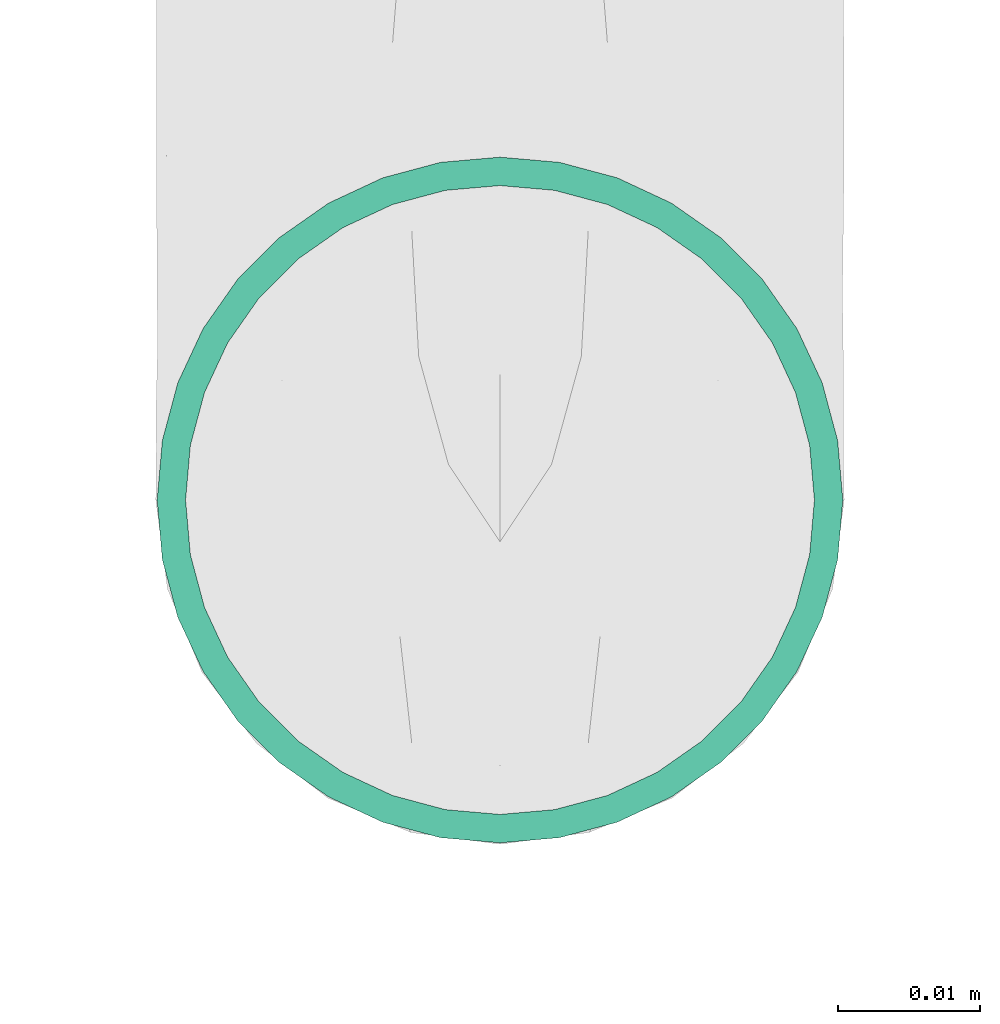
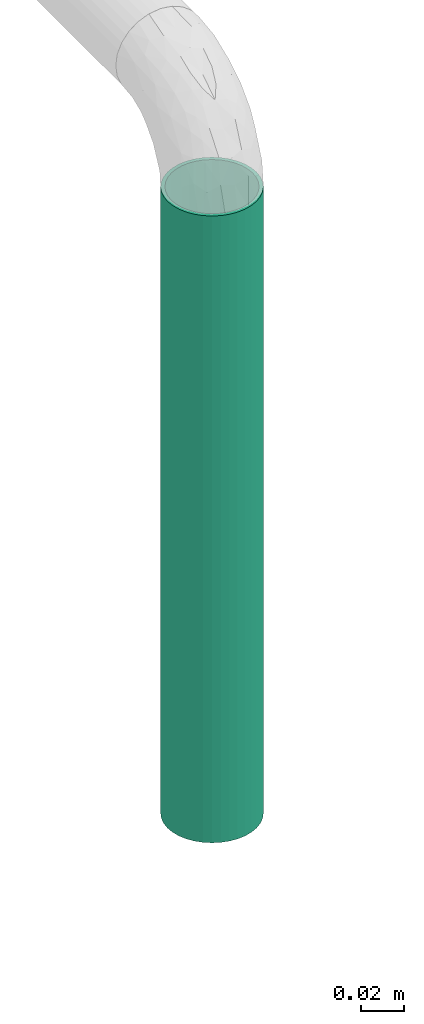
# One storey, part 29 of 32: 1 flow segment.
"""IFC2X3 building model written with IfcOpenShell, lengths in millimetres."""

from ifc_helpers import new_model, entity, si_unit, converted_unit, derived_unit, direction, frame, place, context, subcontext, project, spatial, faceted_brep, type_object, element, save


model = new_model("IFC2X3")

# Units and contexts
model_context = context("Model", 3, precision=0.01, world=frame((0.0, 4.29681676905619e-09, 0.0)), true_north=direction((4.01073788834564e-13, 1.0)))
plan_context = context("Plan", 3, precision=0.01, world=frame((0.0, 4.29681676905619e-09, 0.0)), true_north=direction((4.01073788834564e-13, 1.0)))
body_context = subcontext(model_context, "Body", "Model", "MODEL_VIEW")
ifc_project = project(units=[converted_unit("PLANEANGLEUNIT", "DEGREE", entity("IfcPositiveLengthMeasure", 0.0174532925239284), si_unit("PLANEANGLEUNIT", "RADIAN"), dimensions=[0, 0, 0, 0, 0, 0, 0]), si_unit("AREAUNIT", "SQUARE_METRE"), si_unit("LENGTHUNIT", "METRE", prefix="MILLI"), si_unit("MASSUNIT", "GRAM", prefix="KILO"), si_unit("POWERUNIT", "WATT"), si_unit("PRESSUREUNIT", "PASCAL", prefix="KILO"), si_unit("FORCEUNIT", "NEWTON", prefix="KILO"), si_unit("ELECTRICVOLTAGEUNIT", "VOLT"), si_unit("ELECTRICCURRENTUNIT", "AMPERE"), si_unit("THERMODYNAMICTEMPERATUREUNIT", "DEGREE_CELSIUS"), si_unit("TIMEUNIT", "SECOND"), si_unit("VOLUMEUNIT", "CUBIC_METRE"), derived_unit("LINEARVELOCITYUNIT", [(si_unit("LENGTHUNIT", "METRE"), 1), (si_unit("TIMEUNIT", "SECOND"), -1)]), derived_unit("VOLUMETRICFLOWRATEUNIT", [(si_unit("VOLUMEUNIT", "CUBIC_METRE"), 1), (si_unit("TIMEUNIT", "SECOND"), -1)]), derived_unit("THERMALTRANSMITTANCEUNIT", [(si_unit("POWERUNIT", "WATT"), 1), (si_unit("THERMODYNAMICTEMPERATUREUNIT", "KELVIN"), -1), (si_unit("AREAUNIT", "SQUARE_METRE"), -1)]), derived_unit("SOUNDPRESSUREUNIT", [(si_unit("PRESSUREUNIT", "PASCAL"), 1)])], contexts=[model_context, plan_context])

# Site, building, storey
site_placement = place(None, frame((0.0, -4.29681676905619e-09, 0.0), z_axis=(0.0, 0.0, 1.0), x_axis=(1.0, 0.0, 0.0)))
site = spatial("IfcSite", under=ifc_project, at=site_placement, CompositionType="ELEMENT")
building_placement = place(site_placement, frame((0.0, 4.29681676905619e-09, 0.0), z_axis=(0.0, 0.0, 1.0), x_axis=(1.0, 0.0, 0.0)))
building = spatial("IfcBuilding", under=site, at=building_placement, Name="mc-building", CompositionType="ELEMENT")
storey_placement = place(building_placement, frame((0.0, 0.0, 205200.0), z_axis=(0.0, 0.0, 1.0), x_axis=(1.0, 0.0, 0.0)))
storey = spatial("IfcBuildingStorey", under=building, at=storey_placement, Name="Nivå D + 1,2 m", CompositionType="ELEMENT", Elevation=205200.0)

# Flow segment
pipe_segment_type = type_object("IfcPipeSegmentType", Name="Stålrør normaltykke", PredefinedType="RIGIDSEGMENT")
flow_segment_placement = place(storey_placement, frame((331536.30913, 462693.6706, 2615.83145999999), z_axis=(0.0, -1.0, 0.0), x_axis=(0.0, 0.0, 1.0)))
element("IfcFlowSegment", 1, at=flow_segment_placement, inside=storey, type_object=pipe_segment_type, Name="Stålrør normaltykke", context=body_context, shape_type="Brep", body=[
    faceted_brep([(1384.16854000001, 21.7642513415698, -3.83762472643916), (1384.16854000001, 22.1, 0.0), (1743.2, 22.1, 0.0), (1743.2, 21.7642513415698, -3.83762472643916), (1384.16854000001, 20.7672069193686, -7.5586451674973), (1743.2, 20.7672069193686, -7.5586451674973), (1384.16854000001, 19.1391614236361, -11.05), (1743.2, 19.1391614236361, -11.05), (1384.16854000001, 16.9295821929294, -14.2056061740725), (1743.2, 16.9295821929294, -14.2056061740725), (1384.16854000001, 14.2056061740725, -16.9295821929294), (1743.2, 14.2056061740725, -16.9295821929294), (1384.16854000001, 11.05, -19.1391614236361), (1743.2, 11.05, -19.1391614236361), (1384.16854000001, 7.55864516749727, -20.7672069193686), (1743.2, 7.55864516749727, -20.7672069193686), (1384.16854000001, 3.83762472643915, -21.7642513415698), (1743.2, 3.83762472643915, -21.7642513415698), (1384.16854000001, -4.05970413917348e-15, -22.1), (1743.2, -4.05970413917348e-15, -22.1), (1384.16854000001, -3.83762472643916, -21.7642513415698), (1743.2, -3.83762472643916, -21.7642513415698), (1384.16854000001, -7.55864516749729, -20.7672069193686), (1743.2, -7.55864516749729, -20.7672069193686), (1384.16854000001, -11.05, -19.1391614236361), (1743.2, -11.05, -19.1391614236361), (1384.16854000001, -14.2056061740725, -16.9295821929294), (1743.2, -14.2056061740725, -16.9295821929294), (1384.16854000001, -16.9295821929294, -14.2056061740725), (1743.2, -16.9295821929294, -14.2056061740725), (1384.16854000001, -19.1391614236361, -11.05), (1743.2, -19.1391614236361, -11.05), (1384.16854000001, -20.7672069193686, -7.55864516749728), (1743.2, -20.7672069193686, -7.55864516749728), (1384.16854000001, -21.7642513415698, -3.83762472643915), (1743.2, -21.7642513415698, -3.83762472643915), (1384.16854000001, -22.1, 2.70646942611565e-15), (1743.2, -22.1, 2.70646942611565e-15), (1384.16854000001, -21.7642513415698, 3.83762472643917), (1743.2, -21.7642513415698, 3.83762472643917), (1384.16854000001, -20.7672069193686, 7.55864516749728), (1743.2, -20.7672069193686, 7.55864516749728), (1384.16854000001, -19.1391614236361, 11.05), (1743.2, -19.1391614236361, 11.05), (1384.16854000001, -16.9295821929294, 14.2056061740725), (1743.2, -16.9295821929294, 14.2056061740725), (1384.16854000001, -14.2056061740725, 16.9295821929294), (1743.2, -14.2056061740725, 16.9295821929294), (1384.16854000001, -11.05, 19.1391614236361), (1743.2, -11.05, 19.1391614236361), (1384.16854000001, -7.55864516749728, 20.7672069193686), (1743.2, -7.55864516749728, 20.7672069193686), (1384.16854000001, -3.83762472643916, 21.7642513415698), (1743.2, -3.83762472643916, 21.7642513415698), (1384.16854000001, 1.35323471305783e-15, 22.1), (1743.2, 1.35323471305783e-15, 22.1), (1384.16854000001, 3.83762472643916, 21.7642513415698), (1743.2, 3.83762472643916, 21.7642513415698), (1384.16854000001, 7.55864516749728, 20.7672069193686), (1743.2, 7.55864516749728, 20.7672069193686), (1384.16854000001, 11.05, 19.1391614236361), (1743.2, 11.05, 19.1391614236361), (1384.16854000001, 14.2056061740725, 16.9295821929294), (1743.2, 14.2056061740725, 16.9295821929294), (1384.16854000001, 16.9295821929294, 14.2056061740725), (1743.2, 16.9295821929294, 14.2056061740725), (1384.16854000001, 19.1391614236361, 11.05), (1743.2, 19.1391614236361, 11.05), (1384.16854000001, 20.7672069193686, 7.55864516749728), (1743.2, 20.7672069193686, 7.55864516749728), (1384.16854000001, 21.7642513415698, 3.83762472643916), (1743.2, 21.7642513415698, 3.83762472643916), (1384.16854000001, 24.1, 0.0), (1384.16854000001, 23.7338668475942, -4.18492108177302), (1743.2, 23.7338668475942, -4.18492108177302), (1743.2, 24.1, 0.0), (1384.16854000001, 23.7338668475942, 4.18492108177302), (1743.2, 23.7338668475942, 4.18492108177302), (1384.16854000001, 22.6465921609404, 8.24268545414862), (1743.2, 22.6465921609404, 8.24268545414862), (1384.16854000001, 20.871212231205, 12.05), (1743.2, 20.871212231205, 12.05), (1384.16854000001, 18.4616710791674, 15.4911813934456), (1743.2, 18.4616710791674, 15.4911813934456), (1384.16854000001, 15.4911813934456, 18.4616710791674), (1743.2, 15.4911813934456, 18.4616710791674), (1384.16854000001, 12.05, 20.871212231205), (1743.2, 12.05, 20.871212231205), (1384.16854000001, 8.24268545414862, 22.6465921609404), (1743.2, 8.24268545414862, 22.6465921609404), (1384.16854000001, 4.18492108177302, 23.7338668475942), (1743.2, 4.18492108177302, 23.7338668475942), (1384.16854000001, 1.47569939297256e-15, 24.1), (1743.2, 1.47569939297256e-15, 24.1), (1384.16854000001, -4.18492108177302, 23.7338668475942), (1743.2, -4.18492108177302, 23.7338668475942), (1384.16854000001, -8.24268545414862, 22.6465921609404), (1743.2, -8.24268545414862, 22.6465921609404), (1384.16854000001, -12.05, 20.871212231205), (1743.2, -12.05, 20.871212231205), (1384.16854000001, -15.4911813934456, 18.4616710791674), (1743.2, -15.4911813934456, 18.4616710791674), (1384.16854000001, -18.4616710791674, 15.4911813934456), (1743.2, -18.4616710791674, 15.4911813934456), (1384.16854000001, -20.871212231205, 12.05), (1743.2, -20.871212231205, 12.05), (1384.16854000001, -22.6465921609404, 8.24268545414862), (1743.2, -22.6465921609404, 8.24268545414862), (1384.16854000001, -23.7338668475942, 4.18492108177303), (1743.2, -23.7338668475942, 4.18492108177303), (1384.16854000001, -24.1, 2.95139878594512e-15), (1743.2, -24.1, 2.95139878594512e-15), (1384.16854000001, -23.7338668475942, -4.18492108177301), (1743.2, -23.7338668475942, -4.18492108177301), (1384.16854000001, -22.6465921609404, -8.24268545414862), (1743.2, -22.6465921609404, -8.24268545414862), (1384.16854000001, -20.871212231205, -12.05), (1743.2, -20.871212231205, -12.05), (1384.16854000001, -18.4616710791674, -15.4911813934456), (1743.2, -18.4616710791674, -15.4911813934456), (1384.16854000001, -15.4911813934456, -18.4616710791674), (1743.2, -15.4911813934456, -18.4616710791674), (1384.16854000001, -12.05, -20.871212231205), (1743.2, -12.05, -20.871212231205), (1384.16854000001, -8.24268545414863, -22.6465921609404), (1743.2, -8.24268545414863, -22.6465921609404), (1384.16854000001, -4.18492108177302, -23.7338668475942), (1743.2, -4.18492108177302, -23.7338668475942), (1384.16854000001, -4.42709817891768e-15, -24.1), (1743.2, -4.42709817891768e-15, -24.1), (1384.16854000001, 4.18492108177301, -23.7338668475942), (1743.2, 4.18492108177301, -23.7338668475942), (1384.16854000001, 8.2426854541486, -22.6465921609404), (1743.2, 8.2426854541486, -22.6465921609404), (1384.16854000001, 12.05, -20.871212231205), (1743.2, 12.05, -20.871212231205), (1384.16854000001, 15.4911813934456, -18.4616710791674), (1743.2, 15.4911813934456, -18.4616710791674), (1384.16854000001, 18.4616710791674, -15.4911813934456), (1743.2, 18.4616710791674, -15.4911813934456), (1384.16854000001, 20.871212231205, -12.05), (1743.2, 20.871212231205, -12.05), (1384.16854000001, 22.6465921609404, -8.24268545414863), (1743.2, 22.6465921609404, -8.24268545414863)], [[[0, 1, 2, 3]], [[4, 0, 3, 5]], [[6, 4, 5, 7]], [[8, 6, 7, 9]], [[10, 8, 9, 11]], [[12, 10, 11, 13]], [[14, 12, 13, 15]], [[16, 14, 15, 17]], [[18, 16, 17, 19]], [[20, 18, 19, 21]], [[22, 20, 21, 23]], [[24, 22, 23, 25]], [[26, 24, 25, 27]], [[28, 26, 27, 29]], [[30, 28, 29, 31]], [[32, 30, 31, 33]], [[34, 32, 33, 35]], [[36, 34, 35, 37]], [[38, 36, 37, 39]], [[40, 38, 39, 41]], [[42, 40, 41, 43]], [[44, 42, 43, 45]], [[46, 44, 45, 47]], [[48, 46, 47, 49]], [[50, 48, 49, 51]], [[52, 50, 51, 53]], [[54, 52, 53, 55]], [[56, 54, 55, 57]], [[58, 56, 57, 59]], [[60, 58, 59, 61]], [[62, 60, 61, 63]], [[64, 62, 63, 65]], [[66, 64, 65, 67]], [[68, 66, 67, 69]], [[70, 68, 69, 71]], [[1, 70, 71, 2]], [[72, 73, 74, 75]], [[76, 72, 75, 77]], [[78, 76, 77, 79]], [[80, 78, 79, 81]], [[82, 80, 81, 83]], [[84, 82, 83, 85]], [[86, 84, 85, 87]], [[88, 86, 87, 89]], [[90, 88, 89, 91]], [[92, 90, 91, 93]], [[94, 92, 93, 95]], [[96, 94, 95, 97]], [[98, 96, 97, 99]], [[100, 98, 99, 101]], [[102, 100, 101, 103]], [[104, 102, 103, 105]], [[106, 104, 105, 107]], [[108, 106, 107, 109]], [[110, 108, 109, 111]], [[112, 110, 111, 113]], [[114, 112, 113, 115]], [[116, 114, 115, 117]], [[118, 116, 117, 119]], [[120, 118, 119, 121]], [[122, 120, 121, 123]], [[124, 122, 123, 125]], [[126, 124, 125, 127]], [[128, 126, 127, 129]], [[130, 128, 129, 131]], [[132, 130, 131, 133]], [[134, 132, 133, 135]], [[136, 134, 135, 137]], [[138, 136, 137, 139]], [[140, 138, 139, 141]], [[142, 140, 141, 143]], [[73, 142, 143, 74]], [[75, 74, 143, 141, 139, 137, 135, 133, 131, 129, 127, 125, 123, 121, 119, 117, 115, 113, 111, 109, 107, 105, 103, 101, 99, 97, 95, 93, 91, 89, 87, 85, 83, 81, 79, 77], [2, 71, 69, 67, 65, 63, 61, 59, 57, 55, 53, 51, 49, 47, 45, 43, 41, 39, 37, 35, 33, 31, 29, 27, 25, 23, 21, 19, 17, 15, 13, 11, 9, 7, 5, 3]], [[76, 78, 80, 82, 84, 86, 88, 90, 92, 94, 96, 98, 100, 102, 104, 106, 108, 110, 112, 114, 116, 118, 120, 122, 124, 126, 128, 130, 132, 134, 136, 138, 140, 142, 73, 72], [4, 6, 8, 10, 12, 14, 16, 18, 20, 22, 24, 26, 28, 30, 32, 34, 36, 38, 40, 42, 44, 46, 48, 50, 52, 54, 56, 58, 60, 62, 64, 66, 68, 70, 1, 0]]], orient=[[False], [False], [False], [False], [False], [False], [False], [False], [False], [False], [False], [False], [False], [False], [False], [False], [False], [False], [False], [False], [False], [False], [False], [False], [False], [False], [False], [False], [False], [False], [False], [False], [False], [False], [False], [False], [False], [False], [False], [False], [False], [False], [False], [False], [False], [False], [False], [False], [False], [False], [False], [False], [False], [False], [False], [False], [False], [False], [False], [False], [False], [False], [False], [False], [False], [False], [False], [False], [False], [False], [False], [False], [False, False], [False, False]]),
])

save(model, "model.ifc")
